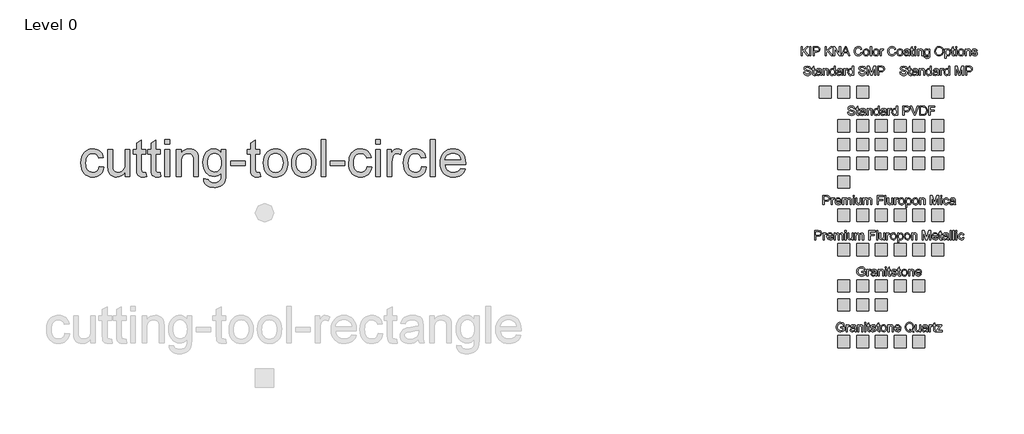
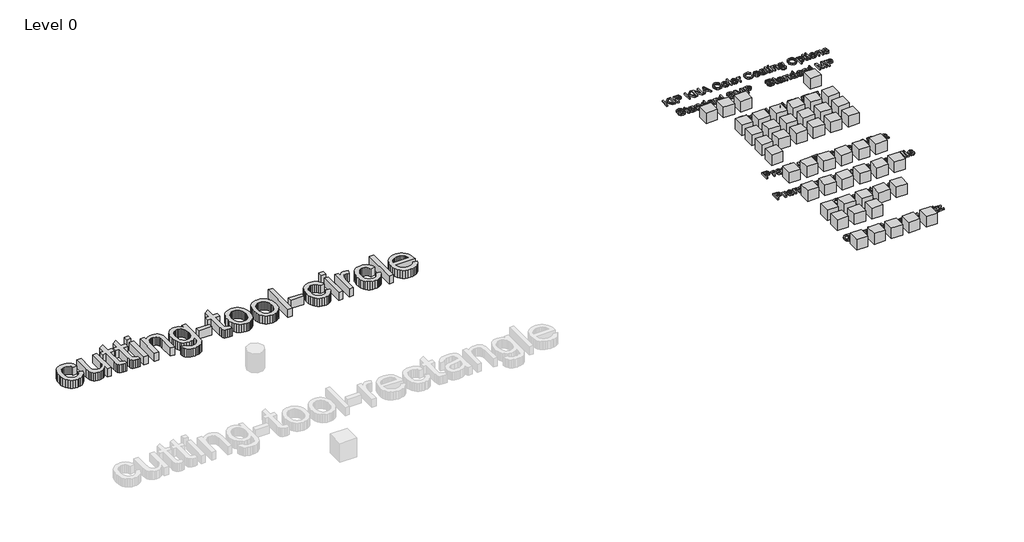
# One storey, part 5 of 5: 50 proxies.
"""IFC4 building model written with IfcOpenShell, lengths in millimetres."""

from ifc_helpers import new_model, si_unit, origin, origin_with_axes, place, context, project, spatial, polyline, outline, extrude, transform, mapped, element, save
from components import ks_color_sample_ks_color_sample_0243efec, r19_kna_color_range_kingspan_quadcore_4278cd54, r19_kna_color_range_kingspan_quadcore_c5814d20, r19_kna_color_range_kingspan_quadcore_91b79b7c

model = new_model("IFC4")

# Units and contexts
model_context = context("Model", 3, world=origin())
ifc_project = project(units=[si_unit("LENGTHUNIT", "METRE", prefix="MILLI")], contexts=[model_context])

# Site, building, storey
site = spatial("IfcSite", under=ifc_project)
building = spatial("IfcBuilding", under=site)
storey = spatial("IfcBuildingStorey", under=building, Name="Level 0", Elevation=0.0)

# Proxies
placement = place(None, origin())
element("IfcBuildingElementProxy", 1, Name="24\" Arial", ObjectType="24\" Arial", at=placement, inside=storey, context=model_context, shape_type="SweptSolid", body=[
    extrude(outline(polyline([(170.9986417, 12403.5957329), (247.1404152, 12394.0780112), (238.858882, 12358.1495413), (225.9114344, 12326.3571907), (208.2980725, 12298.7009593), (186.0187963, 12275.1808473), (160.0123653, 12256.4103014), (131.2175393, 12243.0027687), (99.6343183, 12234.958249), (65.2627023, 12232.2767425), (22.5584325, 12236.0178391), (-15.7308785, 12247.2411291), (-49.6052308, 12265.9466124), (-79.0646242, 12292.134289), (-102.910049, 12325.3115425), (-119.9424953, 12364.9857564), (-130.1619631, 12411.1569307), (-133.5684524, 12463.8250655), (-127.7500014, 12531.5830646), (-120.4769377, 12562.0741642), (-110.2946485, 12590.3066639), (-97.133424, 12615.7135899), (-80.9235543, 12637.7279686), (-61.6650393, 12656.3498001), (-39.3578791, 12671.5790842), (-15.0105432, 12683.4204684), (10.3684989, 12691.8786), (36.7792471, 12696.953479), (64.2217015, 12698.6451053), (98.0031072, 12696.3214428), (128.5592694, 12689.3504552), (155.890188, 12677.7321426), (179.995863, 12661.4665049), (200.4673298, 12640.9253282), (216.8956238, 12616.4803985), (229.2807451, 12588.1317157), (237.6226935, 12555.8792799), (161.48092, 12546.3615582), (147.66907, 12579.5806377), (126.1612497, 12603.3935312), (98.1471743, 12617.7258816), (64.8165591, 12622.5033318), (38.9449006, 12620.1517853), (15.6106815, 12613.0971459), (-5.186098, 12601.3394135), (-23.4454381, 12584.8785882), (-38.3122309, 12563.3335893), (-48.9313687, 12536.3233361), (-55.3028513, 12503.8478287), (-57.4266788, 12465.9070671), (-55.3493245, 12427.3946844), (-49.1172617, 12394.5427437), (-38.7304902, 12367.3512449), (-24.1890101, 12345.820188), (-6.2921614, 12329.4569565), (14.1607161, 12317.768934), (37.1696224, 12310.7561205), (62.7345575, 12308.418516), (102.1624632, 12314.2555563), (119.2134987, 12321.5518566), (134.4892562, 12331.766677), (147.5621815, 12345.0115534), (158.0047209, 12361.3980215), (165.8168743, 12380.9260813), (170.9986417, 12403.5957329)])), origin_with_axes(), (0.0, 0.0, 1.0), 152.4),
    extrude(outline(polyline([(599.2961177, 12241.7944642), (599.2961177, 12318.6798097), (571.7467749, 12280.8784678), (539.6616428, 12253.8775093), (503.0407214, 12237.6769342), (461.8840108, 12232.2767425), (424.798357, 12236.0689597), (390.2780266, 12247.4456114), (361.3158969, 12264.5477676), (340.9048453, 12285.5164982), (327.1673525, 12310.9838394), (318.2258991, 12341.5818275), (313.7644671, 12412.3698826), (313.7644671, 12689.1273836), (389.9062406, 12689.1273836), (389.9062406, 12448.2100533), (391.0587772, 12400.0265873), (394.516387, 12370.5811358), (405.6141992, 12344.6862406), (424.6310533, 12325.0001718), (450.3028768, 12312.5639299), (481.3655974, 12308.418516), (514.2128908, 12312.6568764), (544.941004, 12325.3719578), (570.2782202, 12345.392634), (586.9528224, 12371.5477794), (596.2102939, 12407.3693608), (599.2961177, 12456.3893454), (599.2961177, 12689.1273836), (675.4378913, 12689.1273836), (675.4378913, 12241.7944642), (599.2961177, 12241.7944642)])), origin_with_axes(), (0.0, 0.0, 1.0), 152.4),
    extrude(outline(polyline([(941.9340986, 12305.2955136), (951.4518203, 12239.5637482), (921.2999754, 12234.0984939), (894.4942045, 12232.2767425), (857.9476404, 12235.4369235), (830.6957263, 12244.9174666), (811.4372113, 12259.5286565), (798.8708444, 12278.0807781), (791.9556248, 12309.9428386), (789.6505515, 12364.4838453), (789.6505515, 12612.9856101), (732.5442214, 12612.9856101), (732.5442214, 12689.1273836), (789.6505515, 12689.1273836), (789.6505515, 12797.837611), (865.7923251, 12842.6006458), (865.7923251, 12689.1273836), (941.9340986, 12689.1273836), (941.9340986, 12612.9856101), (865.7923251, 12612.9856101), (865.7923251, 12366.7145613), (869.8076139, 12327.4539594), (882.820124, 12313.5491628), (893.8064004, 12309.7011777), (908.7707871, 12308.418516), (941.9340986, 12305.2955136)])), origin_with_axes(), (0.0, 0.0, 1.0), 152.4),
    extrude(outline(polyline([(1179.8771408, 12305.2955136), (1189.3948625, 12239.5637482), (1159.2430176, 12234.0984939), (1132.4372468, 12232.2767425), (1095.8906826, 12235.4369235), (1068.6387686, 12244.9174666), (1049.3802536, 12259.5286565), (1036.8138867, 12278.0807781), (1029.898667, 12309.9428386), (1027.5935938, 12364.4838453), (1027.5935938, 12612.9856101), (970.4872636, 12612.9856101), (970.4872636, 12689.1273836), (1027.5935938, 12689.1273836), (1027.5935938, 12797.837611), (1103.7353673, 12842.6006458), (1103.7353673, 12689.1273836), (1179.8771408, 12689.1273836), (1179.8771408, 12612.9856101), (1103.7353673, 12612.9856101), (1103.7353673, 12366.7145613), (1107.7506561, 12327.4539594), (1120.7631663, 12313.5491628), (1131.7494427, 12309.7011777), (1146.7138293, 12308.418516), (1179.8771408, 12305.2955136)])), origin_with_axes(), (0.0, 0.0, 1.0), 152.4),
    extrude(outline(polyline([(1256.0189143, 12774.7868788), (1256.0189143, 12850.9286523), (1332.1606878, 12850.9286523), (1332.1606878, 12774.7868788), (1256.0189143, 12774.7868788)])), origin_with_axes(), (0.0, 0.0, 1.0), 152.4),
    extrude(outline(polyline([(1256.0189143, 12241.7944642), (1256.0189143, 12689.1273836), (1332.1606878, 12689.1273836), (1332.1606878, 12241.7944642), (1256.0189143, 12241.7944642)])), origin_with_axes(), (0.0, 0.0, 1.0), 152.4),
    extrude(outline(polyline([(1446.3733481, 12241.7944642), (1446.3733481, 12689.1273836), (1522.5151216, 12689.1273836), (1522.5151216, 12626.667335), (1548.9676958, 12658.1576095), (1580.7368098, 12680.6506627), (1617.8224636, 12694.1464946), (1660.2246573, 12698.6451053), (1697.7564544, 12695.0201917), (1732.1280704, 12684.1454511), (1760.7927713, 12667.3779024), (1781.2038229, 12646.0745644), (1795.0528515, 12620.291205), (1804.0314835, 12590.0835923), (1808.0467723, 12516.4699636), (1808.0467723, 12241.7944642), (1731.9049988, 12241.7944642), (1731.9049988, 12506.2086699), (1729.7114614, 12545.5808076), (1723.1308491, 12573.5762937), (1710.9920361, 12593.6341486), (1692.1238964, 12609.1933928), (1667.9392169, 12619.175847), (1639.8507843, 12622.5033318), (1616.7303422, 12620.6351071), (1595.2550532, 12615.0304331), (1575.4249173, 12605.6893098), (1557.2399344, 12592.6117371), (1542.0478288, 12574.3105711), (1531.1963248, 12549.2986677), (1524.6854224, 12517.5760269), (1522.5151216, 12479.1426488), (1522.5151216, 12241.7944642), (1446.3733481, 12241.7944642)])), origin_with_axes(), (0.0, 0.0, 1.0), 152.4),
    extrude(outline(polyline([(1893.7062675, 12203.7235774), (1969.8480411, 12194.2058557), (1978.2504047, 12170.4115515), (1994.5346317, 12154.0529673), (2026.5454066, 12141.337886), (2068.4456892, 12137.0995256), (2113.1343668, 12141.895565), (2131.1845773, 12147.8906143), (2146.3720355, 12156.2836834), (2169.4227677, 12179.3344156), (2183.5506359, 12210.1182967), (2187.6774605, 12242.8726436), (2188.7556399, 12298.9007943), (2163.4184238, 12273.9167749), (2135.1440982, 12256.0710467), (2103.9326632, 12245.3636098), (2069.7841188, 12241.7944642), (2028.0371979, 12245.9491728), (1991.2815042, 12258.4132985), (1959.5170375, 12279.1868415), (1932.7437979, 12308.2698016), (1911.5008751, 12343.161918), (1896.3273589, 12381.3629299), (1887.2232491, 12422.8728372), (1884.1885458, 12467.6916399), (1889.6352108, 12529.1664556), (1905.9752056, 12585.6965174), (1918.0861347, 12611.1870953), (1932.6322621, 12633.601144), (1949.6135878, 12652.9386635), (1969.0301118, 12669.1996538), (1990.5704634, 12682.0820388), (2013.9232718, 12691.2837424), (2039.0885369, 12696.8047646), (2066.0662588, 12698.6451053), (2101.6740632, 12694.481102), (2133.9915616, 12681.9890923), (2163.0187538, 12661.1690761), (2188.7556399, 12632.0210534), (2188.7556399, 12689.1273836), (2264.8974134, 12689.1273836), (2264.8974134, 12302.9160831), (2259.6924094, 12213.7432102), (2253.1861543, 12180.5752514), (2244.0773972, 12155.019611), (2232.1477138, 12134.4087244), (2217.1786799, 12116.0750271), (2199.1702953, 12100.0185191), (2178.1225602, 12086.2392003), (2154.2492515, 12075.1785667), (2127.764146, 12067.2781141), (2098.6672439, 12062.5378426), (2066.9585452, 12060.9577521), (2029.654467, 12063.1838208), (1996.1147222, 12069.8620269), (1966.3393106, 12080.9923703), (1940.3282324, 12096.5748512), (1919.3176758, 12116.6280588), (1904.5438295, 12141.1705823), (1896.0066934, 12170.2024219), (1893.7062675, 12203.7235774)]), holes=[polyline([(1960.3303194, 12472.8966439), (1962.3612004, 12435.2486638), (1968.4538435, 12403.0566432), (1978.6082488, 12376.3205822), (1992.8244161, 12355.0404808), (2010.1078179, 12338.8073745), (2029.4639267, 12327.2122985), (2050.8927425, 12320.2552529), (2074.3942652, 12317.9362377), (2097.6634217, 12320.2413109), (2118.9899964, 12327.1565306), (2138.3739891, 12338.6818967), (2155.8154, 12354.8174092), (2170.226755, 12375.888381), (2180.5205799, 12402.2201247), (2186.6968749, 12433.8126403), (2188.7556399, 12470.6659279), (2186.6364597, 12505.9809509), (2180.278919, 12536.6765329), (2169.6830179, 12562.7526737), (2154.8487564, 12584.2093734), (2137.0309122, 12600.9629802), (2117.484263, 12612.9298422), (2096.208809, 12620.1099594), (2073.20455, 12622.5033318), (2050.586019, 12620.147138), (2029.7241769, 12613.0785566), (2010.6190237, 12601.2975876), (1993.2705593, 12584.804231), (1978.8592043, 12563.672844), (1968.5653793, 12537.9777839), (1962.3890844, 12507.7190505), (1960.3303194, 12472.8966439)])]), origin_with_axes(), (0.0, 0.0, 1.0), 152.4),
    extrude(outline(polyline([(2341.0391869, 12422.6311763), (2341.0391869, 12498.7729498), (2578.9822292, 12498.7729498), (2578.9822292, 12422.6311763), (2341.0391869, 12422.6311763)])), origin_with_axes(), (0.0, 0.0, 1.0), 152.4),
    extrude(outline(polyline([(2826.4429931, 12305.2955136), (2835.9607148, 12239.5637482), (2805.8088699, 12234.0984939), (2779.0030991, 12232.2767425), (2742.4565349, 12235.4369235), (2715.2046209, 12244.9174666), (2695.9461059, 12259.5286565), (2683.379739, 12278.0807781), (2676.4645193, 12309.9428386), (2674.1594461, 12364.4838453), (2674.1594461, 12612.9856101), (2617.0531159, 12612.9856101), (2617.0531159, 12689.1273836), (2674.1594461, 12689.1273836), (2674.1594461, 12797.837611), (2750.3012196, 12842.6006458), (2750.3012196, 12689.1273836), (2826.4429931, 12689.1273836), (2826.4429931, 12612.9856101), (2750.3012196, 12612.9856101), (2750.3012196, 12366.7145613), (2754.3165084, 12327.4539594), (2767.3290186, 12313.5491628), (2778.315295, 12309.7011777), (2793.2796816, 12308.418516), (2826.4429931, 12305.2955136)])), origin_with_axes(), (0.0, 0.0, 1.0), 152.4),
    extrude(outline(polyline([(2883.5493233, 12465.4609239), (2887.6668532, 12523.3944779), (2900.0194432, 12573.3160435), (2920.6070932, 12615.2256207), (2949.4298031, 12649.1232096), (2978.4477006, 12670.789039), (3010.4770649, 12686.2646314), (3045.5178957, 12695.5499868), (3083.5701931, 12698.6451053), (3125.5773642, 12694.8761247), (3163.5599518, 12683.5691828), (3197.5179559, 12664.7242798), (3227.4513765, 12638.3414155), (3251.8823642, 12605.3128764), (3269.3330698, 12566.5309489), (3279.8034931, 12521.995633), (3283.2936342, 12471.7069287), (3281.7507223, 12430.9498881), (3277.1219866, 12394.7844046), (3269.407427, 12363.2104783), (3258.6070436, 12336.2281091), (3244.8556088, 12312.921774), (3228.287895, 12292.3759499), (3208.9039022, 12274.590637), (3186.7036305, 12259.5658351), (3162.5514823, 12247.6268571), (3137.3118599, 12239.0990156), (3110.9847636, 12233.9823108), (3083.5701931, 12232.2767425), (3040.9495752, 12236.0317811), (3002.6137909, 12247.296897), (2968.5628403, 12266.0720902), (2938.7967234, 12292.3573606), (2914.6259858, 12325.7065652), (2897.3611733, 12365.6735605), (2887.0022858, 12412.2583468), (2883.5493233, 12465.4609239)]), holes=[polyline([(2959.6910968, 12465.6096383), (2961.8939288, 12428.6773462), (2968.5024251, 12396.6991025), (2979.5165854, 12369.6749074), (2994.9364099, 12347.6047608), (3013.6930138, 12330.4607787), (3034.7175123, 12318.2150772), (3058.0099054, 12310.8676563), (3083.5701931, 12308.418516), (3109.0003558, 12310.8815983), (3132.1998024, 12318.2708451), (3153.168533, 12330.5862565), (3171.9065476, 12347.8278324), (3187.3263721, 12370.1164033), (3198.3405324, 12397.5727996), (3204.9490286, 12430.1970214), (3207.1518607, 12467.9890687), (3204.9350867, 12503.7502349), (3198.2847645, 12534.89196), (3187.2008943, 12561.4142441), (3171.683476, 12583.317087), (3152.8757515, 12600.4610691), (3131.9209629, 12612.7067706), (3108.8191101, 12620.0541915), (3083.5701931, 12622.5033318), (3058.0099054, 12620.0634861), (3034.7175123, 12612.7439492), (3013.6930138, 12600.5447209), (2994.9364099, 12583.4658014), (2979.5165854, 12561.4607173), (2968.5024251, 12534.4829954), (2961.8939288, 12502.5326358), (2959.6910968, 12465.6096383)])]), origin_with_axes(), (0.0, 0.0, 1.0), 152.4),
    extrude(outline(polyline([(3349.917686, 12465.4609239), (3354.035216, 12523.3944779), (3366.387806, 12573.3160435), (3386.9754559, 12615.2256207), (3415.7981659, 12649.1232096), (3444.8160634, 12670.789039), (3476.8454276, 12686.2646314), (3511.8862585, 12695.5499868), (3549.9385559, 12698.6451053), (3591.945727, 12694.8761247), (3629.9283146, 12683.5691828), (3663.8863187, 12664.7242798), (3693.8197393, 12638.3414155), (3718.250727, 12605.3128764), (3735.7014326, 12566.5309489), (3746.1718559, 12521.995633), (3749.661997, 12471.7069287), (3748.1190851, 12430.9498881), (3743.4903494, 12394.7844046), (3735.7757898, 12363.2104783), (3724.9754064, 12336.2281091), (3711.2239716, 12312.921774), (3694.6562578, 12292.3759499), (3675.272265, 12274.590637), (3653.0719933, 12259.5658351), (3628.919845, 12247.6268571), (3603.6802227, 12239.0990156), (3577.3531264, 12233.9823108), (3549.9385559, 12232.2767425), (3507.317938, 12236.0317811), (3468.9821537, 12247.296897), (3434.9312031, 12266.0720902), (3405.1650862, 12292.3573606), (3380.9943486, 12325.7065652), (3363.7295361, 12365.6735605), (3353.3706486, 12412.2583468), (3349.917686, 12465.4609239)]), holes=[polyline([(3426.0594596, 12465.6096383), (3428.2622916, 12428.6773462), (3434.8707878, 12396.6991025), (3445.8849482, 12369.6749074), (3461.3047727, 12347.6047608), (3480.0613766, 12330.4607787), (3501.0858751, 12318.2150772), (3524.3782682, 12310.8676563), (3549.9385559, 12308.418516), (3575.3687186, 12310.8815983), (3598.5681652, 12318.2708451), (3619.5368958, 12330.5862565), (3638.2749104, 12347.8278324), (3653.6947349, 12370.1164033), (3664.7088952, 12397.5727996), (3671.3173914, 12430.1970214), (3673.5202235, 12467.9890687), (3671.3034494, 12503.7502349), (3664.6531273, 12534.89196), (3653.5692571, 12561.4142441), (3638.0518388, 12583.317087), (3619.2441143, 12600.4610691), (3598.2893257, 12612.7067706), (3575.1874729, 12620.0541915), (3549.9385559, 12622.5033318), (3524.3782682, 12620.0634861), (3501.0858751, 12612.7439492), (3480.0613766, 12600.5447209), (3461.3047727, 12583.4658014), (3445.8849482, 12561.4607173), (3434.8707878, 12534.4829954), (3428.2622916, 12502.5326358), (3426.0594596, 12465.6096383)])]), origin_with_axes(), (0.0, 0.0, 1.0), 152.4),
    extrude(outline(polyline([(3835.3214922, 12241.7944642), (3835.3214922, 12850.9286523), (3911.4632657, 12850.9286523), (3911.4632657, 12241.7944642), (3835.3214922, 12241.7944642)])), origin_with_axes(), (0.0, 0.0, 1.0), 152.4),
    extrude(outline(polyline([(3987.6050393, 12422.6311763), (3987.6050393, 12498.7729498), (4225.5480815, 12498.7729498), (4225.5480815, 12422.6311763), (3987.6050393, 12422.6311763)])), origin_with_axes(), (0.0, 0.0, 1.0), 152.4),
    extrude(outline(polyline([(4596.7392274, 12403.5957329), (4672.8810009, 12394.0780112), (4664.5994677, 12358.1495413), (4651.6520201, 12326.3571907), (4634.0386582, 12298.7009593), (4611.7593819, 12275.1808473), (4585.752951, 12256.4103014), (4556.958125, 12243.0027687), (4525.374904, 12234.958249), (4491.003288, 12232.2767425), (4448.2990182, 12236.0178391), (4410.0097071, 12247.2411291), (4376.1353549, 12265.9466124), (4346.6759614, 12292.134289), (4322.8305366, 12325.3115425), (4305.7980903, 12364.9857564), (4295.5786226, 12411.1569307), (4292.1721333, 12463.8250655), (4297.9905843, 12531.5830646), (4305.263648, 12562.0741642), (4315.4459371, 12590.3066639), (4328.6071617, 12615.7135899), (4344.8170314, 12637.7279686), (4364.0755464, 12656.3498001), (4386.3827066, 12671.5790842), (4410.7300425, 12683.4204684), (4436.1090846, 12691.8786), (4462.5198328, 12696.953479), (4489.9622872, 12698.6451053), (4523.7436929, 12696.3214428), (4554.2998551, 12689.3504552), (4581.6307737, 12677.7321426), (4605.7364487, 12661.4665049), (4626.2079155, 12640.9253282), (4642.6362095, 12616.4803985), (4655.0213308, 12588.1317157), (4663.3632792, 12555.8792799), (4587.2215057, 12546.3615582), (4573.4096557, 12579.5806377), (4551.9018354, 12603.3935312), (4523.88776, 12617.7258816), (4490.5571448, 12622.5033318), (4464.6854863, 12620.1517853), (4441.3512672, 12613.0971459), (4420.5544877, 12601.3394135), (4402.2951476, 12584.8785882), (4387.4283547, 12563.3335893), (4376.809217, 12536.3233361), (4370.4377344, 12503.8478287), (4368.3139068, 12465.9070671), (4370.3912611, 12427.3946844), (4376.623324, 12394.5427437), (4387.0100955, 12367.3512449), (4401.5515756, 12345.820188), (4419.4484243, 12329.4569565), (4439.9013018, 12317.768934), (4462.9102081, 12310.7561205), (4488.4751432, 12308.418516), (4527.9030488, 12314.2555563), (4544.9540844, 12321.5518566), (4560.2298418, 12331.766677), (4573.3027672, 12345.0115534), (4583.7453066, 12361.3980215), (4591.55746, 12380.9260813), (4596.7392274, 12403.5957329)])), origin_with_axes(), (0.0, 0.0, 1.0), 152.4),
    extrude(outline(polyline([(4739.5050527, 12774.7868788), (4739.5050527, 12850.9286523), (4815.6468263, 12850.9286523), (4815.6468263, 12774.7868788), (4739.5050527, 12774.7868788)])), origin_with_axes(), (0.0, 0.0, 1.0), 152.4),
    extrude(outline(polyline([(4739.5050527, 12241.7944642), (4739.5050527, 12689.1273836), (4815.6468263, 12689.1273836), (4815.6468263, 12241.7944642), (4739.5050527, 12241.7944642)])), origin_with_axes(), (0.0, 0.0, 1.0), 152.4),
    extrude(outline(polyline([(4929.8594865, 12241.7944642), (4929.8594865, 12689.1273836), (4996.4835384, 12689.1273836), (4996.4835384, 12622.949475), (5021.0957718, 12661.3177905), (5043.774718, 12683.9223795), (5066.5280214, 12694.9644238), (5091.3633264, 12698.6451053), (5129.2854988, 12692.7708864), (5167.8025288, 12675.1482299), (5142.3723661, 12606.8883196), (5115.6037739, 12618.5995787), (5088.8351816, 12622.5033318), (5066.1004675, 12618.7482931), (5045.7823624, 12607.4831772), (5029.3680104, 12589.5630918), (5018.3445554, 12565.8431448), (5009.0870839, 12523.310826), (5006.00126, 12476.9119328), (5006.00126, 12241.7944642), (4929.8594865, 12241.7944642)])), origin_with_axes(), (0.0, 0.0, 1.0), 152.4),
    extrude(outline(polyline([(5500.9227879, 12403.5957329), (5577.0645614, 12394.0780112), (5568.7830282, 12358.1495413), (5555.8355806, 12326.3571907), (5538.2222187, 12298.7009593), (5515.9429424, 12275.1808473), (5489.9365115, 12256.4103014), (5461.1416855, 12243.0027687), (5429.5584645, 12234.958249), (5395.1868485, 12232.2767425), (5352.4825787, 12236.0178391), (5314.1932676, 12247.2411291), (5280.3189154, 12265.9466124), (5250.8595219, 12292.134289), (5227.0140972, 12325.3115425), (5209.9816509, 12364.9857564), (5199.7621831, 12411.1569307), (5196.3556938, 12463.8250655), (5202.1741448, 12531.5830646), (5209.4472085, 12562.0741642), (5219.6294977, 12590.3066639), (5232.7907222, 12615.7135899), (5249.0005919, 12637.7279686), (5268.2591069, 12656.3498001), (5290.5662671, 12671.5790842), (5314.913603, 12683.4204684), (5340.2926451, 12691.8786), (5366.7033933, 12696.953479), (5394.1458477, 12698.6451053), (5427.9272534, 12696.3214428), (5458.4834156, 12689.3504552), (5485.8143342, 12677.7321426), (5509.9200092, 12661.4665049), (5530.391476, 12640.9253282), (5546.81977, 12616.4803985), (5559.2048913, 12588.1317157), (5567.5468397, 12555.8792799), (5491.4050662, 12546.3615582), (5477.5932162, 12579.5806377), (5456.0853959, 12603.3935312), (5428.0713205, 12617.7258816), (5394.7407053, 12622.5033318), (5368.8690468, 12620.1517853), (5345.5348277, 12613.0971459), (5324.7380482, 12601.3394135), (5306.4787081, 12584.8785882), (5291.6119153, 12563.3335893), (5280.9927775, 12536.3233361), (5274.6212949, 12503.8478287), (5272.4974674, 12465.9070671), (5274.5748216, 12427.3946844), (5280.8068845, 12394.5427437), (5291.193656, 12367.3512449), (5305.7351361, 12345.820188), (5323.6319848, 12329.4569565), (5344.0848623, 12317.768934), (5367.0937686, 12310.7561205), (5392.6587037, 12308.418516), (5432.0866094, 12314.2555563), (5449.1376449, 12321.5518566), (5464.4134024, 12331.766677), (5477.4863277, 12345.0115534), (5487.9288671, 12361.3980215), (5495.7410205, 12380.9260813), (5500.9227879, 12403.5957329)])), origin_with_axes(), (0.0, 0.0, 1.0), 152.4),
    extrude(outline(polyline([(5643.6886132, 12241.7944642), (5643.6886132, 12850.9286523), (5719.8303868, 12850.9286523), (5719.8303868, 12241.7944642), (5643.6886132, 12241.7944642)])), origin_with_axes(), (0.0, 0.0, 1.0), 152.4),
    extrude(outline(polyline([(6147.2355764, 12375.0425678), (6221.8902059, 12365.5248461), (6210.4438443, 12335.6239568), (6194.9914885, 12309.2736238), (6175.5331386, 12286.4738471), (6152.0687944, 12267.2246268), (6124.840117, 12251.9349274), (6094.0887672, 12241.0137136), (6059.814745, 12234.4609853), (6022.0180504, 12232.2767425), (5974.773344, 12236.0457231), (5932.6778738, 12247.3526649), (5895.7316397, 12266.197568), (5863.9346417, 12292.5804323), (5838.3650593, 12325.7669804), (5820.1010719, 12365.022935), (5809.1426795, 12410.3482962), (5805.489882, 12461.7430638), (5809.1798581, 12514.8805784), (5820.2497863, 12561.7163202), (5838.6996667, 12602.2502892), (5864.5294993, 12636.4824855), (5896.2428454, 12663.6786316), (5932.3432664, 12683.1044503), (5972.8307621, 12694.7599415), (6017.7053328, 12698.6451053), (6061.1345853, 12694.7692362), (6100.4091293, 12683.1416289), (6135.5289646, 12663.7622835), (6166.4940914, 12636.6311999), (6191.7708923, 12602.4733608), (6209.8257501, 12562.013749), (6220.6586648, 12515.2523644), (6224.2696363, 12462.189207), (6223.8234931, 12441.6666197), (5881.6316555, 12441.6666197), (5886.041967, 12411.2824085), (5894.8114693, 12384.6718253), (5907.9401626, 12361.8348701), (5925.4280467, 12342.7715427), (5946.3084781, 12327.7420935), (5969.6148132, 12317.0067727), (5995.347052, 12310.5655802), (6023.5051944, 12308.418516), (6064.0298688, 12312.3966262), (6098.1598239, 12324.330957), (6125.8950598, 12344.9650801), (6147.2355764, 12375.0425678)]), holes=[polyline([(5881.6316555, 12517.8083932), (6148.1278628, 12517.8083932), (6137.8293905, 12558.0356388), (6128.971589, 12573.8551332), (6117.6414105, 12586.8118754), (6096.8771622, 12602.4268876), (6073.2501617, 12613.5804677), (6046.7604089, 12620.2726157), (6017.407904, 12622.5033318), (5990.6346644, 12620.7234063), (5966.0828462, 12615.3836298), (5943.7524494, 12606.4840023), (5923.6434739, 12594.0245239), (5906.7690367, 12578.5814628), (5894.1422545, 12560.7310873), (5885.7631275, 12540.4733974), (5881.6316555, 12517.8083932)])]), origin_with_axes(), (0.0, 0.0, 1.0), 152.4),
])
ks_color_sample_ks_color_sample_shape = ks_color_sample_ks_color_sample_0243efec(model_context)
element("IfcBuildingElementProxy", 2, Name="KS_Color Sample : KS_Color Sample", ObjectType="KS_Color Sample : KS_Color Sample", at=placement, inside=storey, context=model_context, shape_type="MappedRepresentation", body=[
    mapped(ks_color_sample_ks_color_sample_shape, transform((12166.5853815, 13639.2290821, 0.0), x_axis=(1.0, 0.0, 0.0), y_axis=(0.0, 1.0, 0.0), z_axis=(0.0, 0.0, 1.0))),
])
element("IfcBuildingElementProxy", 3, Name="KS_Color Sample : KS_Color Sample", ObjectType="KS_Color Sample : KS_Color Sample", at=placement, inside=storey, context=model_context, shape_type="MappedRepresentation", body=[
    mapped(ks_color_sample_ks_color_sample_shape, transform((12476.5853815, 13639.2290821, 0.0), x_axis=(1.0, 0.0, 0.0), y_axis=(0.0, 1.0, 0.0), z_axis=(0.0, 0.0, 1.0))),
])
element("IfcBuildingElementProxy", 4, Name="KS_Color Sample : KS_Color Sample", ObjectType="KS_Color Sample : KS_Color Sample", at=placement, inside=storey, context=model_context, shape_type="MappedRepresentation", body=[
    mapped(ks_color_sample_ks_color_sample_shape, transform((12786.5853815, 13639.2290821, 0.0), x_axis=(1.0, 0.0, 0.0), y_axis=(0.0, 1.0, 0.0), z_axis=(0.0, 0.0, 1.0))),
])
element("IfcBuildingElementProxy", 5, Name="KS_Color Sample : KS_Color Sample", ObjectType="KS_Color Sample : KS_Color Sample", at=placement, inside=storey, context=model_context, shape_type="MappedRepresentation", body=[
    mapped(ks_color_sample_ks_color_sample_shape, transform((14026.5853815, 13639.2290821, 0.0), x_axis=(1.0, 0.0, 0.0), y_axis=(0.0, 1.0, 0.0), z_axis=(0.0, 0.0, 1.0))),
])
element("IfcBuildingElementProxy", 6, Name="KS_Color Sample : KS_Color Sample", ObjectType="KS_Color Sample : KS_Color Sample", at=placement, inside=storey, context=model_context, shape_type="MappedRepresentation", body=[
    mapped(ks_color_sample_ks_color_sample_shape, transform((12786.5853815, 13079.2290821, 0.0), x_axis=(1.0, 0.0, 0.0), y_axis=(0.0, 1.0, 0.0), z_axis=(0.0, 0.0, 1.0))),
])
element("IfcBuildingElementProxy", 7, Name="KS_Color Sample : KS_Color Sample", ObjectType="KS_Color Sample : KS_Color Sample", at=placement, inside=storey, context=model_context, shape_type="MappedRepresentation", body=[
    mapped(ks_color_sample_ks_color_sample_shape, transform((13096.5853815, 13079.2290821, 0.0), x_axis=(1.0, 0.0, 0.0), y_axis=(0.0, 1.0, 0.0), z_axis=(0.0, 0.0, 1.0))),
])
element("IfcBuildingElementProxy", 8, Name="KS_Color Sample : KS_Color Sample", ObjectType="KS_Color Sample : KS_Color Sample", at=placement, inside=storey, context=model_context, shape_type="MappedRepresentation", body=[
    mapped(ks_color_sample_ks_color_sample_shape, transform((13406.5853815, 13079.2290821, 0.0), x_axis=(1.0, 0.0, 0.0), y_axis=(0.0, 1.0, 0.0), z_axis=(0.0, 0.0, 1.0))),
])
element("IfcBuildingElementProxy", 9, Name="KS_Color Sample : KS_Color Sample", ObjectType="KS_Color Sample : KS_Color Sample", at=placement, inside=storey, context=model_context, shape_type="MappedRepresentation", body=[
    mapped(ks_color_sample_ks_color_sample_shape, transform((13716.5853815, 13079.2290821, 0.0), x_axis=(1.0, 0.0, 0.0), y_axis=(0.0, 1.0, 0.0), z_axis=(0.0, 0.0, 1.0))),
])
element("IfcBuildingElementProxy", 10, Name="KS_Color Sample : KS_Color Sample", ObjectType="KS_Color Sample : KS_Color Sample", at=placement, inside=storey, context=model_context, shape_type="MappedRepresentation", body=[
    mapped(ks_color_sample_ks_color_sample_shape, transform((12476.5853815, 11599.2290821, 0.0), x_axis=(1.0, 0.0, 0.0), y_axis=(0.0, 1.0, 0.0), z_axis=(0.0, 0.0, 1.0))),
])
element("IfcBuildingElementProxy", 11, Name="KS_Color Sample : KS_Color Sample", ObjectType="KS_Color Sample : KS_Color Sample", at=placement, inside=storey, context=model_context, shape_type="MappedRepresentation", body=[
    mapped(ks_color_sample_ks_color_sample_shape, transform((12786.5853815, 11599.2290821, 0.0), x_axis=(1.0, 0.0, 0.0), y_axis=(0.0, 1.0, 0.0), z_axis=(0.0, 0.0, 1.0))),
])
element("IfcBuildingElementProxy", 12, Name="KS_Color Sample : KS_Color Sample", ObjectType="KS_Color Sample : KS_Color Sample", at=placement, inside=storey, context=model_context, shape_type="MappedRepresentation", body=[
    mapped(ks_color_sample_ks_color_sample_shape, transform((13096.5853815, 11599.2290821, 0.0), x_axis=(1.0, 0.0, 0.0), y_axis=(0.0, 1.0, 0.0), z_axis=(0.0, 0.0, 1.0))),
])
element("IfcBuildingElementProxy", 13, Name="KS_Color Sample : KS_Color Sample", ObjectType="KS_Color Sample : KS_Color Sample", at=placement, inside=storey, context=model_context, shape_type="MappedRepresentation", body=[
    mapped(ks_color_sample_ks_color_sample_shape, transform((13406.5853815, 11599.2290821, 0.0), x_axis=(1.0, 0.0, 0.0), y_axis=(0.0, 1.0, 0.0), z_axis=(0.0, 0.0, 1.0))),
])
element("IfcBuildingElementProxy", 14, Name="KS_Color Sample : KS_Color Sample", ObjectType="KS_Color Sample : KS_Color Sample", at=placement, inside=storey, context=model_context, shape_type="MappedRepresentation", body=[
    mapped(ks_color_sample_ks_color_sample_shape, transform((14026.5853815, 13079.2290821, 0.0), x_axis=(1.0, 0.0, 0.0), y_axis=(0.0, 1.0, 0.0), z_axis=(0.0, 0.0, 1.0))),
])
element("IfcBuildingElementProxy", 15, Name="KS_Color Sample : KS_Color Sample", ObjectType="KS_Color Sample : KS_Color Sample", at=placement, inside=storey, context=model_context, shape_type="MappedRepresentation", body=[
    mapped(ks_color_sample_ks_color_sample_shape, transform((13716.5853815, 12769.2290821, 0.0), x_axis=(1.0, 0.0, 0.0), y_axis=(0.0, 1.0, 0.0), z_axis=(0.0, 0.0, 1.0))),
])
element("IfcBuildingElementProxy", 16, Name="KS_Color Sample : KS_Color Sample", ObjectType="KS_Color Sample : KS_Color Sample", at=placement, inside=storey, context=model_context, shape_type="MappedRepresentation", body=[
    mapped(ks_color_sample_ks_color_sample_shape, transform((14026.5853815, 12769.2290821, 0.0), x_axis=(1.0, 0.0, 0.0), y_axis=(0.0, 1.0, 0.0), z_axis=(0.0, 0.0, 1.0))),
])
element("IfcBuildingElementProxy", 17, Name="KS_Color Sample : KS_Color Sample", ObjectType="KS_Color Sample : KS_Color Sample", at=placement, inside=storey, context=model_context, shape_type="MappedRepresentation", body=[
    mapped(ks_color_sample_ks_color_sample_shape, transform((12476.5853815, 12769.2290821, 0.0), x_axis=(1.0, 0.0, 0.0), y_axis=(0.0, 1.0, 0.0), z_axis=(0.0, 0.0, 1.0))),
])
element("IfcBuildingElementProxy", 18, Name="KS_Color Sample : KS_Color Sample", ObjectType="KS_Color Sample : KS_Color Sample", at=placement, inside=storey, context=model_context, shape_type="MappedRepresentation", body=[
    mapped(ks_color_sample_ks_color_sample_shape, transform((13096.5853815, 12769.2290821, 0.0), x_axis=(1.0, 0.0, 0.0), y_axis=(0.0, 1.0, 0.0), z_axis=(0.0, 0.0, 1.0))),
])
element("IfcBuildingElementProxy", 19, Name="KS_Color Sample : KS_Color Sample", ObjectType="KS_Color Sample : KS_Color Sample", at=placement, inside=storey, context=model_context, shape_type="MappedRepresentation", body=[
    mapped(ks_color_sample_ks_color_sample_shape, transform((13406.5853815, 12769.2290821, 0.0), x_axis=(1.0, 0.0, 0.0), y_axis=(0.0, 1.0, 0.0), z_axis=(0.0, 0.0, 1.0))),
])
element("IfcBuildingElementProxy", 20, Name="KS_Color Sample : KS_Color Sample", ObjectType="KS_Color Sample : KS_Color Sample", at=placement, inside=storey, context=model_context, shape_type="MappedRepresentation", body=[
    mapped(ks_color_sample_ks_color_sample_shape, transform((12476.5853815, 12459.2290821, 0.0), x_axis=(1.0, 0.0, 0.0), y_axis=(0.0, 1.0, 0.0), z_axis=(0.0, 0.0, 1.0))),
])
element("IfcBuildingElementProxy", 21, Name="KS_Color Sample : KS_Color Sample", ObjectType="KS_Color Sample : KS_Color Sample", at=placement, inside=storey, context=model_context, shape_type="MappedRepresentation", body=[
    mapped(ks_color_sample_ks_color_sample_shape, transform((12786.5853815, 12459.2290821, 0.0), x_axis=(1.0, 0.0, 0.0), y_axis=(0.0, 1.0, 0.0), z_axis=(0.0, 0.0, 1.0))),
])
element("IfcBuildingElementProxy", 22, Name="KS_Color Sample : KS_Color Sample", ObjectType="KS_Color Sample : KS_Color Sample", at=placement, inside=storey, context=model_context, shape_type="MappedRepresentation", body=[
    mapped(ks_color_sample_ks_color_sample_shape, transform((13096.5853815, 12459.2290821, 0.0), x_axis=(1.0, 0.0, 0.0), y_axis=(0.0, 1.0, 0.0), z_axis=(0.0, 0.0, 1.0))),
])
element("IfcBuildingElementProxy", 23, Name="KS_Color Sample : KS_Color Sample", ObjectType="KS_Color Sample : KS_Color Sample", at=placement, inside=storey, context=model_context, shape_type="MappedRepresentation", body=[
    mapped(ks_color_sample_ks_color_sample_shape, transform((13406.5853815, 12459.2290821, 0.0), x_axis=(1.0, 0.0, 0.0), y_axis=(0.0, 1.0, 0.0), z_axis=(0.0, 0.0, 1.0))),
])
element("IfcBuildingElementProxy", 24, Name="KS_Color Sample : KS_Color Sample", ObjectType="KS_Color Sample : KS_Color Sample", at=placement, inside=storey, context=model_context, shape_type="MappedRepresentation", body=[
    mapped(ks_color_sample_ks_color_sample_shape, transform((13716.5853815, 12459.2290821, 0.0), x_axis=(1.0, 0.0, 0.0), y_axis=(0.0, 1.0, 0.0), z_axis=(0.0, 0.0, 1.0))),
])
element("IfcBuildingElementProxy", 25, Name="KS_Color Sample : KS_Color Sample", ObjectType="KS_Color Sample : KS_Color Sample", at=placement, inside=storey, context=model_context, shape_type="MappedRepresentation", body=[
    mapped(ks_color_sample_ks_color_sample_shape, transform((14026.5853815, 12459.2290821, 0.0), x_axis=(1.0, 0.0, 0.0), y_axis=(0.0, 1.0, 0.0), z_axis=(0.0, 0.0, 1.0))),
])
element("IfcBuildingElementProxy", 26, Name="KS_Color Sample : KS_Color Sample", ObjectType="KS_Color Sample : KS_Color Sample", at=placement, inside=storey, context=model_context, shape_type="MappedRepresentation", body=[
    mapped(ks_color_sample_ks_color_sample_shape, transform((12476.5853815, 12149.2290821, 0.0), x_axis=(1.0, 0.0, 0.0), y_axis=(0.0, 1.0, 0.0), z_axis=(0.0, 0.0, 1.0))),
])
element("IfcBuildingElementProxy", 27, Name="KS_Color Sample : KS_Color Sample", ObjectType="KS_Color Sample : KS_Color Sample", at=placement, inside=storey, context=model_context, shape_type="MappedRepresentation", body=[
    mapped(ks_color_sample_ks_color_sample_shape, transform((13716.5853815, 11599.2290821, 0.0), x_axis=(1.0, 0.0, 0.0), y_axis=(0.0, 1.0, 0.0), z_axis=(0.0, 0.0, 1.0))),
])
element("IfcBuildingElementProxy", 28, Name="KS_Color Sample : KS_Color Sample", ObjectType="KS_Color Sample : KS_Color Sample", at=placement, inside=storey, context=model_context, shape_type="MappedRepresentation", body=[
    mapped(ks_color_sample_ks_color_sample_shape, transform((14026.5853815, 11599.2290821, 0.0), x_axis=(1.0, 0.0, 0.0), y_axis=(0.0, 1.0, 0.0), z_axis=(0.0, 0.0, 1.0))),
])
element("IfcBuildingElementProxy", 29, Name="KS_Color Sample : KS_Color Sample", ObjectType="KS_Color Sample : KS_Color Sample", at=placement, inside=storey, context=model_context, shape_type="MappedRepresentation", body=[
    mapped(ks_color_sample_ks_color_sample_shape, transform((12476.5853815, 11029.2290821, 0.0), x_axis=(1.0, 0.0, 0.0), y_axis=(0.0, 1.0, 0.0), z_axis=(0.0, 0.0, 1.0))),
])
element("IfcBuildingElementProxy", 30, Name="KS_Color Sample : KS_Color Sample", ObjectType="KS_Color Sample : KS_Color Sample", at=placement, inside=storey, context=model_context, shape_type="MappedRepresentation", body=[
    mapped(ks_color_sample_ks_color_sample_shape, transform((12786.5853815, 11029.2290821, 0.0), x_axis=(1.0, 0.0, 0.0), y_axis=(0.0, 1.0, 0.0), z_axis=(0.0, 0.0, 1.0))),
])
element("IfcBuildingElementProxy", 31, Name="KS_Color Sample : KS_Color Sample", ObjectType="KS_Color Sample : KS_Color Sample", at=placement, inside=storey, context=model_context, shape_type="MappedRepresentation", body=[
    mapped(ks_color_sample_ks_color_sample_shape, transform((13096.5853815, 11029.2290821, 0.0), x_axis=(1.0, 0.0, 0.0), y_axis=(0.0, 1.0, 0.0), z_axis=(0.0, 0.0, 1.0))),
])
element("IfcBuildingElementProxy", 32, Name="KS_Color Sample : KS_Color Sample", ObjectType="KS_Color Sample : KS_Color Sample", at=placement, inside=storey, context=model_context, shape_type="MappedRepresentation", body=[
    mapped(ks_color_sample_ks_color_sample_shape, transform((13406.5853815, 11029.2290821, 0.0), x_axis=(1.0, 0.0, 0.0), y_axis=(0.0, 1.0, 0.0), z_axis=(0.0, 0.0, 1.0))),
])
element("IfcBuildingElementProxy", 33, Name="KS_Color Sample : KS_Color Sample", ObjectType="KS_Color Sample : KS_Color Sample", at=placement, inside=storey, context=model_context, shape_type="MappedRepresentation", body=[
    mapped(ks_color_sample_ks_color_sample_shape, transform((13716.5853815, 11029.2290821, 0.0), x_axis=(1.0, 0.0, 0.0), y_axis=(0.0, 1.0, 0.0), z_axis=(0.0, 0.0, 1.0))),
])
element("IfcBuildingElementProxy", 34, Name="KS_Color Sample : KS_Color Sample", ObjectType="KS_Color Sample : KS_Color Sample", at=placement, inside=storey, context=model_context, shape_type="MappedRepresentation", body=[
    mapped(ks_color_sample_ks_color_sample_shape, transform((14026.5853815, 11029.2290821, 0.0), x_axis=(1.0, 0.0, 0.0), y_axis=(0.0, 1.0, 0.0), z_axis=(0.0, 0.0, 1.0))),
])
element("IfcBuildingElementProxy", 35, Name="KS_Color Sample : KS_Color Sample", ObjectType="KS_Color Sample : KS_Color Sample", at=placement, inside=storey, context=model_context, shape_type="MappedRepresentation", body=[
    mapped(ks_color_sample_ks_color_sample_shape, transform((12476.5853815, 10429.2290821, 0.0), x_axis=(1.0, 0.0, 0.0), y_axis=(0.0, 1.0, 0.0), z_axis=(0.0, 0.0, 1.0))),
])
element("IfcBuildingElementProxy", 36, Name="KS_Color Sample : KS_Color Sample", ObjectType="KS_Color Sample : KS_Color Sample", at=placement, inside=storey, context=model_context, shape_type="MappedRepresentation", body=[
    mapped(ks_color_sample_ks_color_sample_shape, transform((12786.5853815, 10429.2290821, 0.0), x_axis=(1.0, 0.0, 0.0), y_axis=(0.0, 1.0, 0.0), z_axis=(0.0, 0.0, 1.0))),
])
element("IfcBuildingElementProxy", 37, Name="KS_Color Sample : KS_Color Sample", ObjectType="KS_Color Sample : KS_Color Sample", at=placement, inside=storey, context=model_context, shape_type="MappedRepresentation", body=[
    mapped(ks_color_sample_ks_color_sample_shape, transform((13096.5853815, 10429.2290821, 0.0), x_axis=(1.0, 0.0, 0.0), y_axis=(0.0, 1.0, 0.0), z_axis=(0.0, 0.0, 1.0))),
])
element("IfcBuildingElementProxy", 38, Name="KS_Color Sample : KS_Color Sample", ObjectType="KS_Color Sample : KS_Color Sample", at=placement, inside=storey, context=model_context, shape_type="MappedRepresentation", body=[
    mapped(ks_color_sample_ks_color_sample_shape, transform((13406.5853815, 10429.2290821, 0.0), x_axis=(1.0, 0.0, 0.0), y_axis=(0.0, 1.0, 0.0), z_axis=(0.0, 0.0, 1.0))),
])
element("IfcBuildingElementProxy", 39, Name="KS_Color Sample : KS_Color Sample", ObjectType="KS_Color Sample : KS_Color Sample", at=placement, inside=storey, context=model_context, shape_type="MappedRepresentation", body=[
    mapped(ks_color_sample_ks_color_sample_shape, transform((13716.5853815, 10429.2290821, 0.0), x_axis=(1.0, 0.0, 0.0), y_axis=(0.0, 1.0, 0.0), z_axis=(0.0, 0.0, 1.0))),
])
element("IfcBuildingElementProxy", 40, Name="KS_Color Sample : KS_Color Sample", ObjectType="KS_Color Sample : KS_Color Sample", at=placement, inside=storey, context=model_context, shape_type="MappedRepresentation", body=[
    mapped(ks_color_sample_ks_color_sample_shape, transform((12476.5853815, 10119.2290821, 0.0), x_axis=(1.0, 0.0, 0.0), y_axis=(0.0, 1.0, 0.0), z_axis=(0.0, 0.0, 1.0))),
])
element("IfcBuildingElementProxy", 41, Name="KS_Color Sample : KS_Color Sample", ObjectType="KS_Color Sample : KS_Color Sample", at=placement, inside=storey, context=model_context, shape_type="MappedRepresentation", body=[
    mapped(ks_color_sample_ks_color_sample_shape, transform((12786.5853815, 10119.2290821, 0.0), x_axis=(1.0, 0.0, 0.0), y_axis=(0.0, 1.0, 0.0), z_axis=(0.0, 0.0, 1.0))),
])
element("IfcBuildingElementProxy", 42, Name="KS_Color Sample : KS_Color Sample", ObjectType="KS_Color Sample : KS_Color Sample", at=placement, inside=storey, context=model_context, shape_type="MappedRepresentation", body=[
    mapped(ks_color_sample_ks_color_sample_shape, transform((13096.5853815, 10119.2290821, 0.0), x_axis=(1.0, 0.0, 0.0), y_axis=(0.0, 1.0, 0.0), z_axis=(0.0, 0.0, 1.0))),
])
element("IfcBuildingElementProxy", 43, Name="KS_Color Sample : KS_Color Sample", ObjectType="KS_Color Sample : KS_Color Sample", at=placement, inside=storey, context=model_context, shape_type="MappedRepresentation", body=[
    mapped(ks_color_sample_ks_color_sample_shape, transform((12476.5853815, 9509.2290821, 0.0), x_axis=(1.0, 0.0, 0.0), y_axis=(0.0, 1.0, 0.0), z_axis=(0.0, 0.0, 1.0))),
])
element("IfcBuildingElementProxy", 44, Name="KS_Color Sample : KS_Color Sample", ObjectType="KS_Color Sample : KS_Color Sample", at=placement, inside=storey, context=model_context, shape_type="MappedRepresentation", body=[
    mapped(ks_color_sample_ks_color_sample_shape, transform((12786.5853815, 9509.2290821, 0.0), x_axis=(1.0, 0.0, 0.0), y_axis=(0.0, 1.0, 0.0), z_axis=(0.0, 0.0, 1.0))),
])
element("IfcBuildingElementProxy", 45, Name="KS_Color Sample : KS_Color Sample", ObjectType="KS_Color Sample : KS_Color Sample", at=placement, inside=storey, context=model_context, shape_type="MappedRepresentation", body=[
    mapped(ks_color_sample_ks_color_sample_shape, transform((13096.5853815, 9509.2290821, 0.0), x_axis=(1.0, 0.0, 0.0), y_axis=(0.0, 1.0, 0.0), z_axis=(0.0, 0.0, 1.0))),
])
element("IfcBuildingElementProxy", 46, Name="KS_Color Sample : KS_Color Sample", ObjectType="KS_Color Sample : KS_Color Sample", at=placement, inside=storey, context=model_context, shape_type="MappedRepresentation", body=[
    mapped(ks_color_sample_ks_color_sample_shape, transform((13406.5853815, 9509.2290821, 0.0), x_axis=(1.0, 0.0, 0.0), y_axis=(0.0, 1.0, 0.0), z_axis=(0.0, 0.0, 1.0))),
])
element("IfcBuildingElementProxy", 47, Name="KS_Color Sample : KS_Color Sample", ObjectType="KS_Color Sample : KS_Color Sample", at=placement, inside=storey, context=model_context, shape_type="MappedRepresentation", body=[
    mapped(ks_color_sample_ks_color_sample_shape, transform((13716.5853815, 9509.2290821, 0.0), x_axis=(1.0, 0.0, 0.0), y_axis=(0.0, 1.0, 0.0), z_axis=(0.0, 0.0, 1.0))),
])
element("IfcBuildingElementProxy", 48, Name="KS_Color Sample : KS_Color Sample", ObjectType="KS_Color Sample : KS_Color Sample", at=placement, inside=storey, context=model_context, shape_type="MappedRepresentation", body=[
    mapped(ks_color_sample_ks_color_sample_shape, transform((12476.5853815, 13079.2290821, 0.0), x_axis=(1.0, 0.0, 0.0), y_axis=(0.0, 1.0, 0.0), z_axis=(0.0, 0.0, 1.0))),
])
element("IfcBuildingElementProxy", 49, Name="KS_Color Sample : KS_Color Sample", ObjectType="KS_Color Sample : KS_Color Sample", at=placement, inside=storey, context=model_context, shape_type="MappedRepresentation", body=[
    mapped(ks_color_sample_ks_color_sample_shape, transform((12786.5853815, 12769.2290821, 0.0), x_axis=(1.0, 0.0, 0.0), y_axis=(0.0, 1.0, 0.0), z_axis=(0.0, 0.0, 1.0))),
])
r19_kna_color_range_kingspan_quadcore_shape = r19_kna_color_range_kingspan_quadcore_4278cd54(model_context)
r19_kna_color_range_kingspan_quadcore_2_shape = r19_kna_color_range_kingspan_quadcore_c5814d20(model_context)
r19_kna_color_range_kingspan_quadcore_3_shape = r19_kna_color_range_kingspan_quadcore_91b79b7c(model_context)
element("IfcBuildingElementProxy", 50, Name="R19_KNA_Color Range : Kingspan Quadcore", ObjectType="R19_KNA_Color Range : Kingspan Quadcore", at=placement, inside=storey, context=model_context, shape_type="MappedRepresentation", body=[
    mapped(r19_kna_color_range_kingspan_quadcore_shape, transform((13221.5853815, 13539.2290821, 0.0), x_axis=(1.0, 0.0, 0.0), y_axis=(0.0, 1.0, 0.0), z_axis=(0.0, 0.0, 1.0))),
    mapped(r19_kna_color_range_kingspan_quadcore_2_shape, transform((13221.5853815, 13539.2290821, 0.0), x_axis=(1.0, 0.0, 0.0), y_axis=(0.0, 1.0, 0.0), z_axis=(0.0, 0.0, 1.0))),
    mapped(r19_kna_color_range_kingspan_quadcore_3_shape, transform((13221.5853815, 13539.2290821, 0.0), x_axis=(1.0, 0.0, 0.0), y_axis=(0.0, 1.0, 0.0), z_axis=(0.0, 0.0, 1.0))),
])

save(model, "model.ifc")
